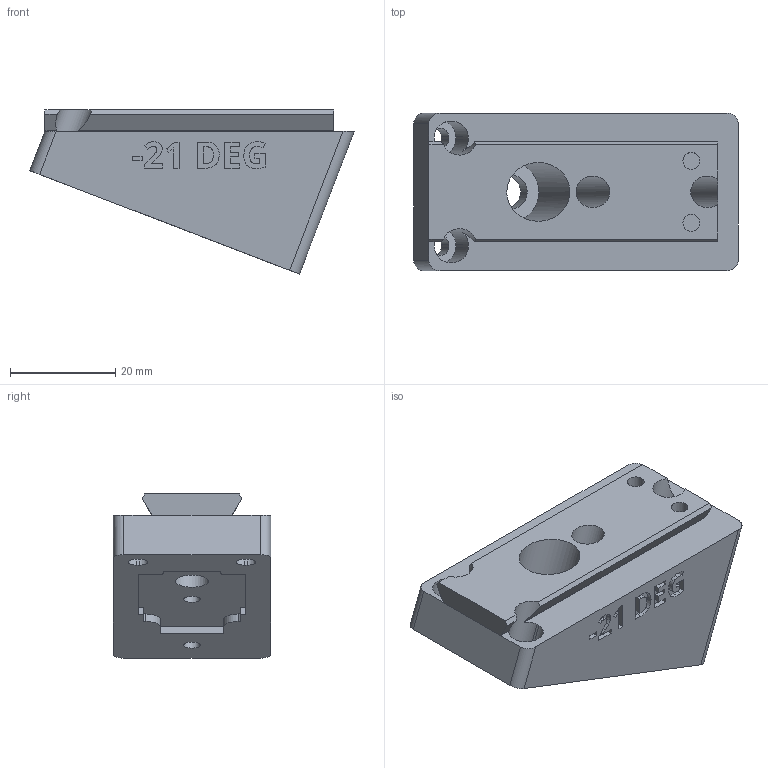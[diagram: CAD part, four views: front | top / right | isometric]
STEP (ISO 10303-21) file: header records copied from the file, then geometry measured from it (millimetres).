
FILE_DESCRIPTION(/* description */ ('STEP AP242 Edition 2','CAx-IF Rec.Pracs.---Representation and Presentation of Product Manufacturing Information (PMI)---4.0---2014-10-13','CAx-IF Rec.Pracs.---3D Tessellated Geometry---0.4---2014-09-14','2;1','CAx-IF Rec.Pracs.---User Defined Attributes---1.5---2016-08-15'),/* implementation_level */ '2;1');
FILE_NAME(/* name */ 'Camera Wedges - CAMERA MOUNTING WEDGE, NEG, -21 DEG',/* time_stamp */ '2026-08-11T00:06:52Z',/* author */ (''),/* organization */ (''),/* preprocessor_version */ 'ST-DEVELOPER v20',/* originating_system */ 'ONSHAPE BY PTC INC, 1.219',/* authorisation */ ' ');
FILE_SCHEMA (('AP242_MANAGED_MODEL_BASED_3D_ENGINEERING_MIM_LF { 1 0 10303 442 3 1 4 }'));
Length unit declared in the file: metre
Products named in the file (1): CAMERA MOUNTING WEDGE, NEG, -21 DEG
Bounding box: 61.78 x 30 x 31.27 mm (x, y, z)
Volume: 30046.3 mm3; surface area: 9406.6 mm2
Topology: 1 solids, 1 shells, 253 faces, 694 edges, 462 vertices
Faces by surface type: plane 155, cylinder 52, bspline 46
Full cylindrical faces by diameter (mm): 3.2 x4, 6 x2, 6.4 x1, 11.2 x1
Entity records: 8146 total; most frequent: CARTESIAN_POINT 1906, ORIENTED_EDGE 1370, DIRECTION 1126, EDGE_CURVE 685, LINE 476, VECTOR 476, VERTEX_POINT 461, AXIS2_PLACEMENT_3D 325
